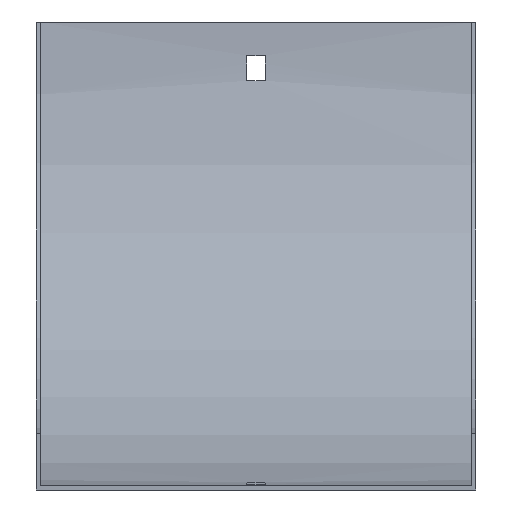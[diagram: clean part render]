
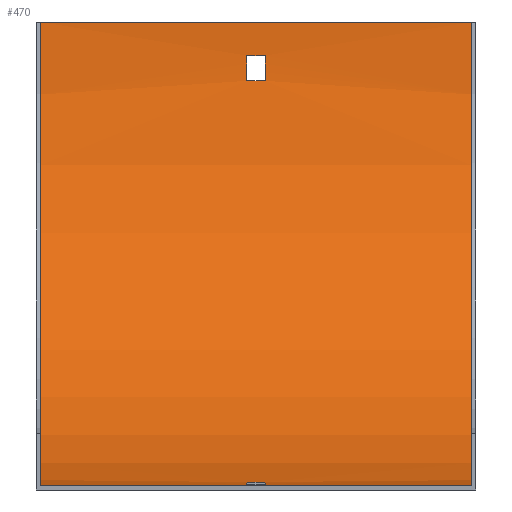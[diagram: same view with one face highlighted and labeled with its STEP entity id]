
A CAD part, front view. The second image highlights one B-rep face of the part: STEP entity #470.
In plain terms, the highlighted cylindrical face has radius 165.5 mm (diameter 331 mm), a partial arc.
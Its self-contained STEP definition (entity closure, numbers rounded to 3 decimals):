
#10 = DIRECTION ( 'NONE',  ( -1., 0., 0. ) ) ;
#24 = EDGE_LOOP ( 'NONE', ( #246, #436, #450, #253 ) ) ;
#27 = FACE_BOUND ( 'NONE', #38, .T. ) ;
#28 = LINE ( 'NONE', #211, #221 ) ;
#31 = DIRECTION ( 'NONE',  ( 1., 0., 0. ) ) ;
#37 = DIRECTION ( 'NONE',  ( -1., 0., 0. ) ) ;
#38 = EDGE_LOOP ( 'NONE', ( #274, #293, #215, #506 ) ) ;
#39 = DIRECTION ( 'NONE',  ( 0., 0., 1. ) ) ;
#40 = DIRECTION ( 'NONE',  ( 0., 0., 1. ) ) ;
#41 = VERTEX_POINT ( 'NONE', #515 ) ;
#52 = AXIS2_PLACEMENT_3D ( 'NONE', #535, #485, #451 ) ;
#59 = CYLINDRICAL_SURFACE ( 'NONE', #183, 165.5 ) ;
#63 = EDGE_CURVE ( 'NONE', #324, #464, #457, .T. ) ;
#65 = CARTESIAN_POINT ( 'NONE',  ( 78.5, -2.838, -21. ) ) ;
#70 = DIRECTION ( 'NONE',  ( 1., 0., 0. ) ) ;
#87 = CARTESIAN_POINT ( 'NONE',  ( 3.25, -1.936, -12. ) ) ;
#95 = EDGE_CURVE ( 'NONE', #587, #198, #443, .T. ) ;
#111 = VECTOR ( 'NONE', #10, 1000. ) ;
#112 = EDGE_CURVE ( 'NONE', #41, #113, #193, .T. ) ;
#113 = VERTEX_POINT ( 'NONE', #172 ) ;
#114 = LINE ( 'NONE', #486, #111 ) ;
#148 = ORIENTED_EDGE ( 'NONE', *, *, #328, .F. ) ;
#153 = LINE ( 'NONE', #65, #361 ) ;
#156 = DIRECTION ( 'NONE',  ( 1., 0., 0. ) ) ;
#160 = DIRECTION ( 'NONE',  ( 0., 0., 1. ) ) ;
#169 = AXIS2_PLACEMENT_3D ( 'NONE', #279, #507, #39 ) ;
#172 = CARTESIAN_POINT ( 'NONE',  ( -3.25, -146., -164.162 ) ) ;
#177 = VERTEX_POINT ( 'NONE', #362 ) ;
#183 = AXIS2_PLACEMENT_3D ( 'NONE', #586, #350, #244 ) ;
#193 = CIRCLE ( 'NONE', #371, 165.5 ) ;
#194 = EDGE_CURVE ( 'NONE', #329, #430, #432, .T. ) ;
#197 = CIRCLE ( 'NONE', #524, 165.5 ) ;
#198 = VERTEX_POINT ( 'NONE', #87 ) ;
#200 = FACE_BOUND ( 'NONE', #24, .T. ) ;
#211 = CARTESIAN_POINT ( 'NONE',  ( 78.5, -155., -165.064 ) ) ;
#215 = ORIENTED_EDGE ( 'NONE', *, *, #95, .F. ) ;
#221 = VECTOR ( 'NONE', #379, 1000. ) ;
#230 = CARTESIAN_POINT ( 'NONE',  ( -3.25, -2.838, -21. ) ) ;
#238 = VERTEX_POINT ( 'NONE', #392 ) ;
#241 = CARTESIAN_POINT ( 'NONE',  ( 3.25, -2.838, -21. ) ) ;
#244 = DIRECTION ( 'NONE',  ( 0., 0., 1. ) ) ;
#246 = ORIENTED_EDGE ( 'NONE', *, *, #519, .T. ) ;
#253 = ORIENTED_EDGE ( 'NONE', *, *, #194, .T. ) ;
#254 = CARTESIAN_POINT ( 'NONE',  ( 3.25, -155., -165.064 ) ) ;
#256 = AXIS2_PLACEMENT_3D ( 'NONE', #577, #31, #160 ) ;
#261 = EDGE_CURVE ( 'NONE', #113, #329, #597, .T. ) ;
#274 = ORIENTED_EDGE ( 'NONE', *, *, #283, .F. ) ;
#277 = CARTESIAN_POINT ( 'NONE',  ( -3.25, -167., 0. ) ) ;
#279 = CARTESIAN_POINT ( 'NONE',  ( 3.25, -167., 0. ) ) ;
#283 = EDGE_CURVE ( 'NONE', #521, #289, #197, .T. ) ;
#289 = VERTEX_POINT ( 'NONE', #230 ) ;
#291 = AXIS2_PLACEMENT_3D ( 'NONE', #554, #427, #421 ) ;
#293 = ORIENTED_EDGE ( 'NONE', *, *, #377, .F. ) ;
#300 = CARTESIAN_POINT ( 'NONE',  ( 77., -1.5, 0. ) ) ;
#324 = VERTEX_POINT ( 'NONE', #572 ) ;
#328 = EDGE_CURVE ( 'NONE', #464, #177, #360, .T. ) ;
#329 = VERTEX_POINT ( 'NONE', #343 ) ;
#343 = CARTESIAN_POINT ( 'NONE',  ( 3.25, -146., -164.162 ) ) ;
#344 = ORIENTED_EDGE ( 'NONE', *, *, #63, .F. ) ;
#350 = DIRECTION ( 'NONE',  ( -1., 0., 0. ) ) ;
#351 = CARTESIAN_POINT ( 'NONE',  ( 78.5, -146., -164.162 ) ) ;
#360 = CIRCLE ( 'NONE', #256, 165.5 ) ;
#361 = VECTOR ( 'NONE', #156, 1000. ) ;
#362 = CARTESIAN_POINT ( 'NONE',  ( -77., -1.5, 0. ) ) ;
#371 = AXIS2_PLACEMENT_3D ( 'NONE', #589, #70, #580 ) ;
#377 = EDGE_CURVE ( 'NONE', #198, #521, #114, .T. ) ;
#379 = DIRECTION ( 'NONE',  ( -1., 0., 0. ) ) ;
#381 = DIRECTION ( 'NONE',  ( -1., 0., 0. ) ) ;
#392 = CARTESIAN_POINT ( 'NONE',  ( 77., -1.5, 0. ) ) ;
#407 = EDGE_CURVE ( 'NONE', #238, #177, #493, .T. ) ;
#421 = DIRECTION ( 'NONE',  ( 0., 0., 1. ) ) ;
#427 = DIRECTION ( 'NONE',  ( 1., 0., 0. ) ) ;
#430 = VERTEX_POINT ( 'NONE', #254 ) ;
#432 = CIRCLE ( 'NONE', #169, 165.5 ) ;
#436 = ORIENTED_EDGE ( 'NONE', *, *, #112, .T. ) ;
#443 = CIRCLE ( 'NONE', #52, 165.5 ) ;
#447 = CARTESIAN_POINT ( 'NONE',  ( -77., -167., -165.5 ) ) ;
#450 = ORIENTED_EDGE ( 'NONE', *, *, #261, .T. ) ;
#451 = DIRECTION ( 'NONE',  ( 0., 0., -1. ) ) ;
#457 = LINE ( 'NONE', #575, #475 ) ;
#460 = DIRECTION ( 'NONE',  ( -1., 0., 0. ) ) ;
#464 = VERTEX_POINT ( 'NONE', #447 ) ;
#470 = ADVANCED_FACE ( 'NONE', ( #27, #527, #200 ), #59, .F. ) ;
#475 = VECTOR ( 'NONE', #37, 1000. ) ;
#485 = DIRECTION ( 'NONE',  ( 1., 0., 0. ) ) ;
#486 = CARTESIAN_POINT ( 'NONE',  ( 78.5, -1.936, -12. ) ) ;
#493 = LINE ( 'NONE', #300, #548 ) ;
#497 = EDGE_CURVE ( 'NONE', #289, #587, #153, .T. ) ;
#506 = ORIENTED_EDGE ( 'NONE', *, *, #497, .F. ) ;
#507 = DIRECTION ( 'NONE',  ( -1., 0., 0. ) ) ;
#515 = CARTESIAN_POINT ( 'NONE',  ( -3.25, -155., -165.064 ) ) ;
#519 = EDGE_CURVE ( 'NONE', #430, #41, #28, .T. ) ;
#521 = VERTEX_POINT ( 'NONE', #568 ) ;
#524 = AXIS2_PLACEMENT_3D ( 'NONE', #277, #460, #40 ) ;
#527 = FACE_OUTER_BOUND ( 'NONE', #583, .T. ) ;
#534 = ORIENTED_EDGE ( 'NONE', *, *, #407, .T. ) ;
#535 = CARTESIAN_POINT ( 'NONE',  ( 3.25, -167., 0. ) ) ;
#544 = DIRECTION ( 'NONE',  ( 1., 0., 0. ) ) ;
#547 = VECTOR ( 'NONE', #544, 1000. ) ;
#548 = VECTOR ( 'NONE', #381, 1000. ) ;
#549 = EDGE_CURVE ( 'NONE', #324, #238, #574, .T. ) ;
#554 = CARTESIAN_POINT ( 'NONE',  ( 77., -167., 0. ) ) ;
#564 = ORIENTED_EDGE ( 'NONE', *, *, #549, .T. ) ;
#568 = CARTESIAN_POINT ( 'NONE',  ( -3.25, -1.936, -12. ) ) ;
#572 = CARTESIAN_POINT ( 'NONE',  ( 77., -167., -165.5 ) ) ;
#574 = CIRCLE ( 'NONE', #291, 165.5 ) ;
#575 = CARTESIAN_POINT ( 'NONE',  ( 77., -167., -165.5 ) ) ;
#577 = CARTESIAN_POINT ( 'NONE',  ( -77., -167., 0. ) ) ;
#580 = DIRECTION ( 'NONE',  ( 0., 0., -1. ) ) ;
#583 = EDGE_LOOP ( 'NONE', ( #148, #344, #564, #534 ) ) ;
#586 = CARTESIAN_POINT ( 'NONE',  ( 78.5, -167., 0. ) ) ;
#587 = VERTEX_POINT ( 'NONE', #241 ) ;
#589 = CARTESIAN_POINT ( 'NONE',  ( -3.25, -167., 0. ) ) ;
#597 = LINE ( 'NONE', #351, #547 ) ;
